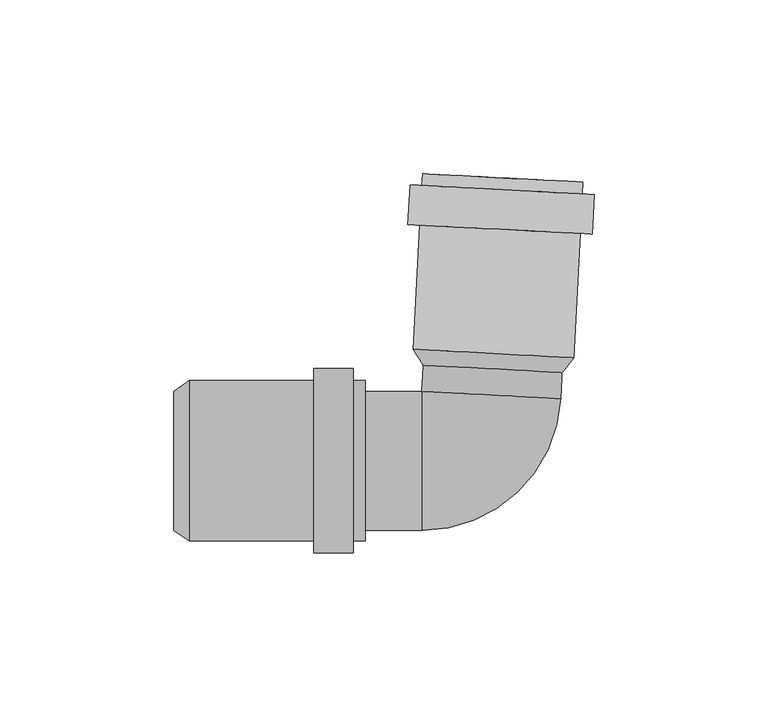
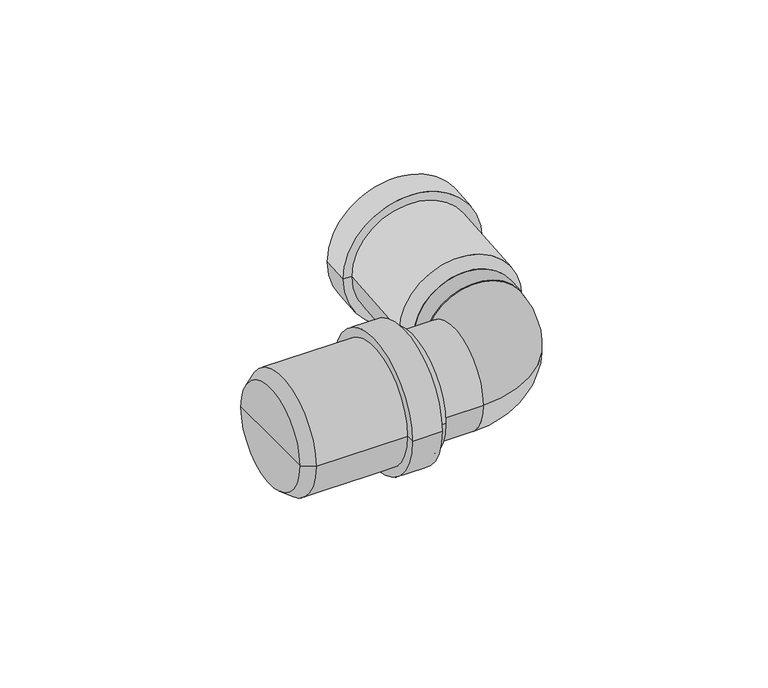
"""IFC4 building model written with IfcOpenShell, lengths in millimetres: pipe fitting geometry, pf_HTB : pf_HTB."""

from ifc_helpers import new_model, si_unit, point, frame, origin, origin_2d, place, context, project, spatial, polyline, circle_curve, ellipse_curve, trimmed, segment, composite_curve, outline, extrude, source, transform, mapped, element, save
from ifc_brep_helpers import plane_surface, cylinder_surface, revolved_surface, advanced_brep


def pipe_fitting_725b9d8f(model_context):
    return source(origin(), model_context, "Body", "SolidModel", [
        advanced_brep(
        [(21.3594935, 25.4169635, 0.0), (-18.5856879, 27.5104018, 0.0), (-21.4511612, 32.0666132, 0.0), (24.6855233, 29.648692, 0.0), (1.3869028, 26.4636827, 0.0), (27.3337227, 80.1793465, 0.0), (-18.8029618, 82.5972677, 0.0), (-15.7072103, 82.4350262, 0.0), (24.2379711, 80.341588, 0.0), (27.1557804, 76.7840061, 0.0), (-18.9809041, 79.2019273, 0.0), (30.5511209, 76.6060638, 0.0), (-22.3762445, 79.3798695, 0.0), (29.954491, 65.2216871, 0.0), (-22.9728744, 67.9954928, 0.0), (26.5591505, 65.3996294, 0.0), (-19.577534, 67.8175506, 0.0), (21.5897717, 29.8109335, 0.0), (-18.3554096, 31.9043717, 0.0), (1.617181, 30.8576526, 0.0)],
        [
            (0, 1, circle_curve(frame((1.3869028, 26.4636827, 0.0), z_axis=(0.05233595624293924, 0.9986295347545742, 0.0), x_axis=(-0.9986295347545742, 0.05233595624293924, 0.0)), 20.0)),
            (1, 2),
            (2, 3, circle_curve(frame((1.617181, 30.8576526, 0.0), z_axis=(-0.05233595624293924, -0.9986295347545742, 0.0), x_axis=(-0.9986295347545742, 0.05233595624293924, 0.0)), 23.1)),
            (3, 0),
            (1, 0, circle_curve(frame((1.3869028, 26.4636827, 0.0), z_axis=(0.05233595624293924, 0.9986295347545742, 0.0), x_axis=(-0.9986295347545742, 0.05233595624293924, 0.0)), 20.0)),
            (3, 2, circle_curve(frame((1.617181, 30.8576526, 0.0), z_axis=(-0.05233595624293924, -0.9986295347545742, 0.0), x_axis=(-0.9986295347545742, 0.05233595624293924, 0.0)), 23.1)),
            (4, 1),
            (0, 4),
            (5, 6, circle_curve(frame((4.2653804, 81.3883071, 0.0), z_axis=(0.05233595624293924, 0.9986295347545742, 0.0), x_axis=(-0.9986295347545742, 0.05233595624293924, 0.0)), 23.1)),
            (6, 7),
            (7, 8, circle_curve(frame((4.2653804, 81.3883071, 0.0), z_axis=(-0.05233595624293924, -0.9986295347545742, 0.0), x_axis=(-0.9986295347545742, 0.05233595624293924, 0.0)), 20.0)),
            (8, 5),
            (6, 5, circle_curve(frame((4.2653804, 81.3883071, 0.0), z_axis=(0.05233595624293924, 0.9986295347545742, 0.0), x_axis=(-0.9986295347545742, 0.05233595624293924, 0.0)), 23.1)),
            (8, 7, circle_curve(frame((4.2653804, 81.3883071, 0.0), z_axis=(-0.05233595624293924, -0.9986295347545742, 0.0), x_axis=(-0.9986295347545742, 0.05233595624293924, 0.0)), 20.0)),
            (9, 10, circle_curve(frame((4.0874382, 77.9929667, 0.0), z_axis=(0.05233595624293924, 0.9986295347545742, 0.0), x_axis=(-0.9986295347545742, 0.05233595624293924, 0.0)), 23.1)),
            (10, 6),
            (5, 9),
            (10, 9, circle_curve(frame((4.0874382, 77.9929667, 0.0), z_axis=(0.05233595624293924, 0.9986295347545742, 0.0), x_axis=(-0.9986295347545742, 0.05233595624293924, 0.0)), 23.1)),
            (11, 12, circle_curve(frame((4.0874382, 77.9929667, 0.0), z_axis=(0.05233595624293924, 0.9986295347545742, 0.0), x_axis=(-0.9986295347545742, 0.05233595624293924, 0.0)), 26.5)),
            (12, 10),
            (9, 11),
            (12, 11, circle_curve(frame((4.0874382, 77.9929667, 0.0), z_axis=(0.05233595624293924, 0.9986295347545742, 0.0), x_axis=(-0.9986295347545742, 0.05233595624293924, 0.0)), 26.5)),
            (13, 14, circle_curve(frame((3.4908083, 66.60859, 0.0), z_axis=(0.05233595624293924, 0.9986295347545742, 0.0), x_axis=(-0.9986295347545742, 0.05233595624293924, 0.0)), 26.5)),
            (14, 12),
            (11, 13),
            (14, 13, circle_curve(frame((3.4908083, 66.60859, 0.0), z_axis=(0.05233595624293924, 0.9986295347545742, 0.0), x_axis=(-0.9986295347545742, 0.05233595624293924, 0.0)), 26.5)),
            (15, 16, circle_curve(frame((3.4908083, 66.60859, 0.0), z_axis=(0.05233595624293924, 0.9986295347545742, 0.0), x_axis=(-0.9986295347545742, 0.05233595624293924, 0.0)), 23.1)),
            (16, 14),
            (13, 15),
            (16, 15, circle_curve(frame((3.4908083, 66.60859, 0.0), z_axis=(0.05233595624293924, 0.9986295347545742, 0.0), x_axis=(-0.9986295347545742, 0.05233595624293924, 0.0)), 23.1)),
            (2, 16),
            (15, 3),
            (17, 18, circle_curve(frame((1.617181, 30.8576526, 0.0), z_axis=(0.05233595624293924, 0.9986295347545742, 0.0), x_axis=(-0.9986295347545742, 0.05233595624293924, 0.0)), 20.0)),
            (18, 19),
            (19, 17),
            (18, 17, circle_curve(frame((1.617181, 30.8576526, 0.0), z_axis=(0.05233595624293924, 0.9986295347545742, 0.0), x_axis=(-0.9986295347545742, 0.05233595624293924, 0.0)), 20.0)),
            (7, 18),
            (17, 8),
        ],
        [
            revolved_surface(polyline([(-21.4511612, 32.0666132, 0.0), (-18.5856879, 27.5104018, 0.0)]), (1.3869028, 26.4636827, 0.0), (-0.05233595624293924, -0.9986295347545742, 0.0)),
            plane_surface(frame((1.3869028, 26.4636827, 0.0), z_axis=(-0.05233595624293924, -0.9986295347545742, 0.0), x_axis=(-0.9986295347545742, 0.05233595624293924, 0.0))),
            plane_surface(frame((4.2653804, 81.3883071, 0.0), z_axis=(0.05233595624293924, 0.9986295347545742, 0.0), x_axis=(-0.9986295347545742, 0.05233595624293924, 0.0))),
            cylinder_surface(frame((1.3869028, 26.4636827, 0.0), z_axis=(-0.05233595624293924, -0.9986295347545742, 0.0), x_axis=(-0.9986295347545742, 0.05233595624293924, 0.0)), 23.1),
            plane_surface(frame((4.0874382, 77.9929667, 0.0), z_axis=(0.05233595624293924, 0.9986295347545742, 0.0), x_axis=(-0.9986295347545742, 0.05233595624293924, 0.0))),
            cylinder_surface(frame((1.3869028, 26.4636827, 0.0), z_axis=(-0.05233595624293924, -0.9986295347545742, 0.0), x_axis=(-0.9986295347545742, 0.05233595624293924, 0.0)), 26.5),
            plane_surface(frame((3.4908083, 66.60859, 0.0), z_axis=(-0.05233595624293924, -0.9986295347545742, 0.0), x_axis=(-0.9986295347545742, 0.05233595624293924, 0.0))),
            plane_surface(frame((1.617181, 30.8576526, 0.0), z_axis=(0.05233595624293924, 0.9986295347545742, 0.0), x_axis=(-0.9986295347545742, 0.05233595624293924, 0.0))),
            revolved_surface(polyline([(-18.3554096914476, 31.904371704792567, 0.0), (-15.707210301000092, 82.43502625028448, 0.0)]), (1.3869028, 26.4636827, 0.0), (-0.05233595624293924, -0.9986295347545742, 0.0)),
        ],
        [
            (0, [[1, 2, 3, 4]]),
            (0, [[5, -4, 6, -2]]),
            (1, [[7, -1, 8]]),
            (1, [[-8, -5, -7]]),
            (2, [[9, 10, 11, 12]]),
            (2, [[13, -12, 14, -10]]),
            (3, [[15, 16, -9, 17]]),
            (3, [[18, -17, -13, -16]]),
            (4, [[19, 20, -15, 21]]),
            (4, [[22, -21, -18, -20]]),
            (5, [[23, 24, -19, 25]]),
            (5, [[26, -25, -22, -24]]),
            (6, [[27, 28, -23, 29]]),
            (6, [[30, -29, -26, -28]]),
            (3, [[-3, 31, -27, 32]]),
            (3, [[-6, -32, -30, -31]]),
            (7, [[33, 34, 35]]),
            (7, [[36, -35, -34]]),
            (8, [[-11, 37, -33, 38]]),
            (8, [[-14, -38, -36, -37]]),
        ],
    ),
        advanced_brep(
        [(-90.3, -20.0, 0.0), (-90.3, 20.0, 0.0), (-85.9, 23.1, 0.0), (-85.9, -23.1, 0.0), (-90.3, 0.0, 0.0), (-35.3, -23.1, 0.0), (-35.3, 23.1, 0.0), (-35.3, 20.0, 0.0), (-35.3, -20.0, 0.0), (-38.7, -23.1, 0.0), (-38.7, 23.1, 0.0), (-38.7, -26.5, 0.0), (-38.7, 26.5, 0.0), (-50.1, -26.5, 0.0), (-50.1, 26.5, 0.0), (-50.1, -23.1, 0.0), (-50.1, 23.1, 0.0), (-85.9, -20.0, 0.0), (-85.9, 20.0, 0.0), (-85.9, 0.0, 0.0)],
        [
            (0, 1, circle_curve(frame((-90.3, 0.0, 0.0), z_axis=(1.0, 0.0, 0.0), x_axis=(0.0, 1.0, 0.0)), 20.0)),
            (1, 2),
            (2, 3, circle_curve(frame((-85.9, 0.0, 0.0), z_axis=(-1.0, 0.0, 0.0), x_axis=(0.0, 1.0, 0.0)), 23.1)),
            (3, 0),
            (1, 0, circle_curve(frame((-90.3, 0.0, 0.0), z_axis=(1.0, 0.0, 0.0), x_axis=(0.0, 1.0, 0.0)), 20.0)),
            (3, 2, circle_curve(frame((-85.9, 0.0, 0.0), z_axis=(-1.0, 0.0, 0.0), x_axis=(0.0, 1.0, 0.0)), 23.1)),
            (4, 1),
            (0, 4),
            (5, 6, circle_curve(frame((-35.3, 0.0, 0.0), z_axis=(1.0, 0.0, 0.0), x_axis=(0.0, 1.0, 0.0)), 23.1)),
            (6, 7),
            (7, 8, circle_curve(frame((-35.3, 0.0, 0.0), z_axis=(-1.0, 0.0, 0.0), x_axis=(0.0, 1.0, 0.0)), 20.0)),
            (8, 5),
            (6, 5, circle_curve(frame((-35.3, 0.0, 0.0), z_axis=(1.0, 0.0, 0.0), x_axis=(0.0, 1.0, 0.0)), 23.1)),
            (8, 7, circle_curve(frame((-35.3, 0.0, 0.0), z_axis=(-1.0, 0.0, 0.0), x_axis=(0.0, 1.0, 0.0)), 20.0)),
            (9, 10, circle_curve(frame((-38.7, 0.0, 0.0), z_axis=(1.0, 0.0, 0.0), x_axis=(0.0, 1.0, 0.0)), 23.1)),
            (10, 6),
            (5, 9),
            (10, 9, circle_curve(frame((-38.7, 0.0, 0.0), z_axis=(1.0, 0.0, 0.0), x_axis=(0.0, 1.0, 0.0)), 23.1)),
            (11, 12, circle_curve(frame((-38.7, 0.0, 0.0), z_axis=(1.0, 0.0, 0.0), x_axis=(0.0, 1.0, 0.0)), 26.5)),
            (12, 10),
            (9, 11),
            (12, 11, circle_curve(frame((-38.7, 0.0, 0.0), z_axis=(1.0, 0.0, 0.0), x_axis=(0.0, 1.0, 0.0)), 26.5)),
            (13, 14, circle_curve(frame((-50.1, 0.0, 0.0), z_axis=(1.0, 0.0, 0.0), x_axis=(0.0, 1.0, 0.0)), 26.5)),
            (14, 12),
            (11, 13),
            (14, 13, circle_curve(frame((-50.1, 0.0, 0.0), z_axis=(1.0, 0.0, 0.0), x_axis=(0.0, 1.0, 0.0)), 26.5)),
            (15, 16, circle_curve(frame((-50.1, 0.0, 0.0), z_axis=(1.0, 0.0, 0.0), x_axis=(0.0, 1.0, 0.0)), 23.1)),
            (16, 14),
            (13, 15),
            (16, 15, circle_curve(frame((-50.1, 0.0, 0.0), z_axis=(1.0, 0.0, 0.0), x_axis=(0.0, 1.0, 0.0)), 23.1)),
            (2, 16),
            (15, 3),
            (17, 18, circle_curve(frame((-85.9, 0.0, 0.0), z_axis=(1.0, 0.0, 0.0), x_axis=(0.0, 1.0, 0.0)), 20.0)),
            (18, 19),
            (19, 17),
            (18, 17, circle_curve(frame((-85.9, 0.0, 0.0), z_axis=(1.0, 0.0, 0.0), x_axis=(0.0, 1.0, 0.0)), 20.0)),
            (7, 18),
            (17, 8),
        ],
        [
            revolved_surface(polyline([(-85.9, 23.1, 0.0), (-90.3, 20.0, 0.0)]), (-90.3, 0.0, 0.0), (-1.0, 0.0, 0.0)),
            plane_surface(frame((-90.3, 0.0, 0.0), z_axis=(-1.0, 0.0, 0.0), x_axis=(0.0, 1.0, 0.0))),
            plane_surface(frame((-35.3, 0.0, 0.0), z_axis=(1.0, 0.0, 0.0), x_axis=(0.0, 1.0, 0.0))),
            cylinder_surface(frame((-90.3, 0.0, 0.0), z_axis=(-1.0, 0.0, 0.0), x_axis=(0.0, 1.0, 0.0)), 23.1),
            plane_surface(frame((-38.7, 0.0, 0.0), z_axis=(1.0, 0.0, 0.0), x_axis=(0.0, 1.0, 0.0))),
            cylinder_surface(frame((-90.3, 0.0, 0.0), z_axis=(-1.0, 0.0, 0.0), x_axis=(0.0, 1.0, 0.0)), 26.5),
            plane_surface(frame((-50.1, 0.0, 0.0), z_axis=(-1.0, 0.0, 0.0), x_axis=(0.0, 1.0, 0.0))),
            plane_surface(frame((-85.9, 0.0, 0.0), z_axis=(1.0, 0.0, 0.0), x_axis=(0.0, 1.0, 0.0))),
            revolved_surface(polyline([(-85.9, 20.0, 0.0), (-35.3, 20.0, 0.0)]), (-90.3, 0.0, 0.0), (-1.0, 0.0, 0.0)),
        ],
        [
            (0, [[1, 2, 3, 4]]),
            (0, [[5, -4, 6, -2]]),
            (1, [[7, -1, 8]]),
            (1, [[-8, -5, -7]]),
            (2, [[9, 10, 11, 12]]),
            (2, [[13, -12, 14, -10]]),
            (3, [[15, 16, -9, 17]]),
            (3, [[18, -17, -13, -16]]),
            (4, [[19, 20, -15, 21]]),
            (4, [[22, -21, -18, -20]]),
            (5, [[23, 24, -19, 25]]),
            (5, [[26, -25, -22, -24]]),
            (6, [[27, 28, -23, 29]]),
            (6, [[30, -29, -26, -28]]),
            (3, [[-3, 31, -27, 32]]),
            (3, [[-6, -32, -30, -31]]),
            (7, [[33, 34, 35]]),
            (7, [[36, -35, -34]]),
            (8, [[-11, 37, -33, 38]]),
            (8, [[-14, -38, -36, -37]]),
        ],
    ),
        extrude(outline(composite_curve([segment(trimmed(circle_curve(origin_2d(), 20.0), [point((0.0, -20.0))], [point((0.0, 20.0))], False, "CARTESIAN"), True, "CONTINUOUS"), segment(trimmed(circle_curve(origin_2d(), 20.0), [point((0.0, 20.0))], [point((0.0, -20.0))], False, "CARTESIAN"), True, "CONTINUOUS")], self_intersect=False)), frame((0.9932994, 18.9532809, 0.0), z_axis=(0.05233595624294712, 0.9986295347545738, 0.0), x_axis=(0.0, 0.0, 1.0)), (0.0, 0.0, 1.0), 11.9207087),
        extrude(outline(composite_curve([segment(trimmed(circle_curve(origin_2d(), 20.0), [point((-20.0, 0.0))], [point((20.0, 0.0))], False, "CARTESIAN"), True, "CONTINUOUS"), segment(trimmed(circle_curve(origin_2d(), 20.0), [point((20.0, 0.0))], [point((-20.0, 0.0))], False, "CARTESIAN"), True, "CONTINUOUS")], self_intersect=False)), frame((-85.9, 0.0, 0.0), z_axis=(1.0, 0.0, 0.0), x_axis=(0.0, 1.0, 0.0)), (0.0, 0.0, 1.0), 66.9207087),
        advanced_brep(
        [(-18.9792913, -20.0, 0.0), (-18.9792913, 20.0, 0.0), (20.9658901, 17.9065618, 0.0)],
        [
            (0, 1, circle_curve(frame((-18.9792913, 0.0, 0.0), z_axis=(-1.0, 0.0, 0.0), x_axis=(0.0, 1.0, 0.0)), 20.0)),
            (1, 0, circle_curve(frame((-18.9792913, 0.0, 0.0), z_axis=(-1.0, 0.0, 0.0), x_axis=(0.0, 1.0, 0.0)), 20.0)),
            (2, 1, circle_curve(frame((0.9932994, 18.9532809, 0.0), z_axis=(0.05233595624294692, 0.9986295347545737, 0.0), x_axis=(-0.9986295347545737, 0.05233595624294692, 0.0)), 20.0)),
            (1, 2, circle_curve(frame((0.9932994, 18.9532809, 0.0), z_axis=(0.05233595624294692, 0.9986295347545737, 0.0), x_axis=(-0.9986295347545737, 0.05233595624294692, 0.0)), 20.0)),
            (2, 0, circle_curve(frame((-18.9792913, 20.0, 0.0), z_axis=(0.0, 0.0, -1.0), x_axis=(0.0, -1.0, 0.0)), 40.0)),
        ],
        [
            plane_surface(frame((-18.9792913, 20.0, -14.8), z_axis=(-1.0, 0.0, 0.0), x_axis=(0.0, -1.0, 0.0))),
            plane_surface(frame((-18.9792913, 20.0, -14.8), z_axis=(0.052335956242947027, 0.9986295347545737, 0.0), x_axis=(0.9986295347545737, -0.052335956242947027, 0.0))),
            revolved_surface(trimmed(ellipse_curve(frame((-18.9792913, 0.0, 0.0), z_axis=(1.0, 0.0, 0.0), x_axis=(0.0, 1.0, 0.0)), 20.0, 20.0), [point((-18.9792913, -20.0, 0.0))], [point((-18.9792913, 20.0, 0.0))], True, "CARTESIAN"), (-18.9792913, 20.0, -14.8), (0.0, 0.0, -1.0)),
            revolved_surface(trimmed(ellipse_curve(frame((-18.9792913, 0.0, 0.0), z_axis=(1.0, 0.0, 0.0), x_axis=(0.0, 1.0, 0.0)), 20.0, 20.0), [point((-18.9792913, 20.0, 0.0))], [point((-18.9792913, -20.0, 0.0))], True, "CARTESIAN"), (-18.9792913, 20.0, -14.8), (0.0, 0.0, -1.0)),
        ],
        [
            (0, [[1, 2]]),
            (1, [[3, 4]]),
            (2, [[5, -2, -3]]),
            (3, [[-1, -5, -4]]),
        ],
    ),
    ])


if __name__ == "__main__":
    model = new_model("IFC4")
    model_context = context("Model", 3, world=origin())
    ifc_project = project(units=[si_unit("LENGTHUNIT", "METRE", prefix="MILLI")], contexts=[model_context])
    site = spatial("IfcSite", under=ifc_project)
    building = spatial("IfcBuilding", under=site)
    placement = place(None, origin())
    pipe_fitting_shape = pipe_fitting_725b9d8f(model_context)
    element("IfcPipeFitting", 1, ObjectType="pf_HTB : pf_HTB", at=placement, inside=building, context=model_context, shape_type="MappedRepresentation", body=[
        mapped(pipe_fitting_shape, transform((0.0, 0.0, 0.0), x_axis=(1.0, 0.0, 0.0), y_axis=(0.0, 1.0, 0.0), z_axis=(0.0, 0.0, 1.0))),
    ])
    save(model, "model.ifc")
